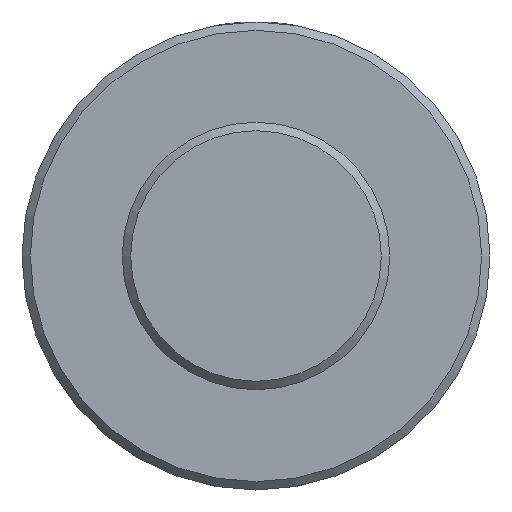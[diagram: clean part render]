
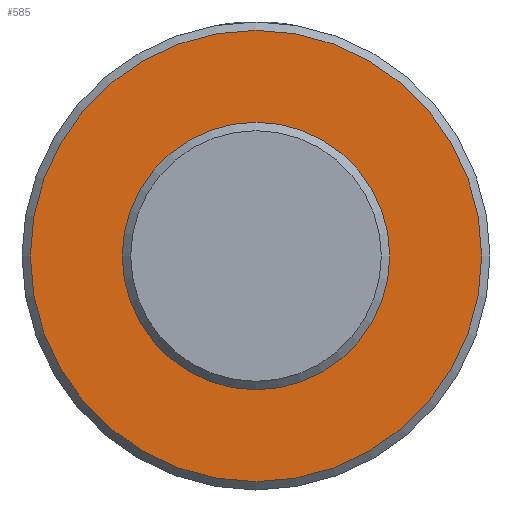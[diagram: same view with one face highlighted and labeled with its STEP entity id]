
A CAD part, left-side view. The second image highlights one B-rep face of the part: STEP entity #585.
In plain terms, the highlighted planar face has unit normal (-1, 0, 0).
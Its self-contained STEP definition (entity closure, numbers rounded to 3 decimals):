
#177=FACE_BOUND('',#1080,.T.);
#178=FACE_BOUND('',#1081,.T.);
#386=CIRCLE('',#4136,8.);
#387=CIRCLE('',#4138,13.5);
#585=ADVANCED_FACE('',(#177,#178),#673,.F.);
#673=PLANE('',#4139);
#1080=EDGE_LOOP('',(#2416));
#1081=EDGE_LOOP('',(#2417));
#2416=ORIENTED_EDGE('',*,*,#3381,.T.);
#2417=ORIENTED_EDGE('',*,*,#3378,.T.);
#2825=VERTEX_POINT('',#9353);
#2828=VERTEX_POINT('',#9417);
#3378=EDGE_CURVE('',#2825,#2825,#386,.T.);
#3381=EDGE_CURVE('',#2828,#2828,#387,.T.);
#4136=AXIS2_PLACEMENT_3D('',#9352,#4956,#4957);
#4138=AXIS2_PLACEMENT_3D('',#9416,#4960,#4961);
#4139=AXIS2_PLACEMENT_3D('',#9418,#4962,#4963);
#4956=DIRECTION('',(1.,0.,0.));
#4957=DIRECTION('',(0.,0.,-1.));
#4960=DIRECTION('',(-1.,0.,0.));
#4961=DIRECTION('',(0.,0.,-1.));
#4962=DIRECTION('',(1.,0.,0.));
#4963=DIRECTION('',(0.,0.,-1.));
#9352=CARTESIAN_POINT('',(-54.,0.,0.));
#9353=CARTESIAN_POINT('',(-54.,0.,-8.));
#9416=CARTESIAN_POINT('',(-54.,0.,0.));
#9417=CARTESIAN_POINT('',(-54.,0.,-13.5));
#9418=CARTESIAN_POINT('',(-54.,0.,0.));
